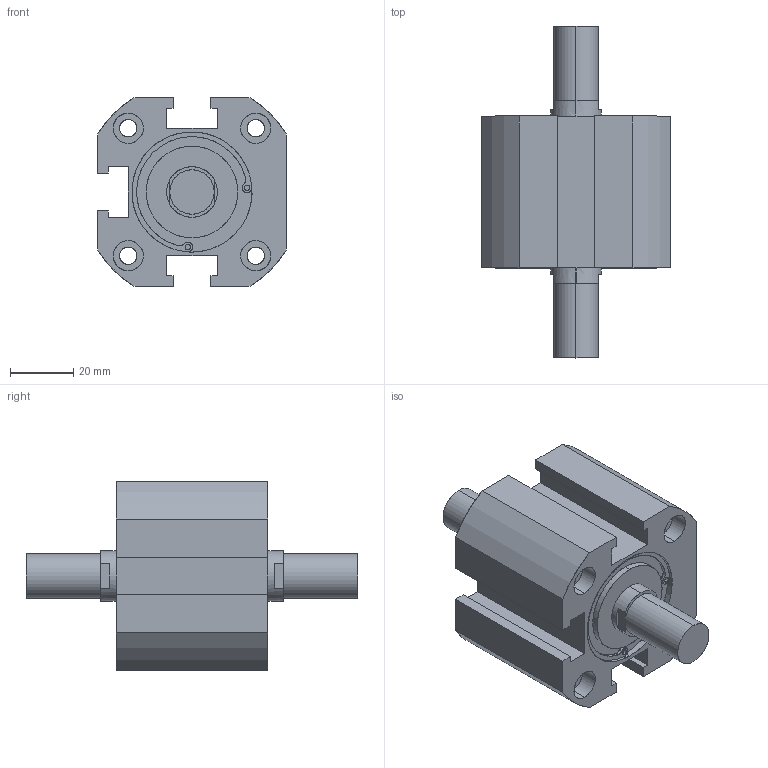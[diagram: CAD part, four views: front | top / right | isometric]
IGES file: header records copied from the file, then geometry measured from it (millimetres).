
Start section: SolidWorks IGES file using analytic representation for surfaces
Global section: file name: C:\Users\Toshiba\Desktop\XG#M7-40D-10.IGS; native system: SolidWorks 2014; preprocessor: SolidWorks 2014; author: Toshiba; date: 160524.102407; units: millimetre
Bounding box: 60 x 105 x 60 mm (x, y, z)
Surface area: 27838.2 mm2 (no closed solid volume)
Topology: 0 solids, 0 shells, 149 faces, 2752 edges, 2748 vertices
Faces by surface type: revolution 85, bspline 64
